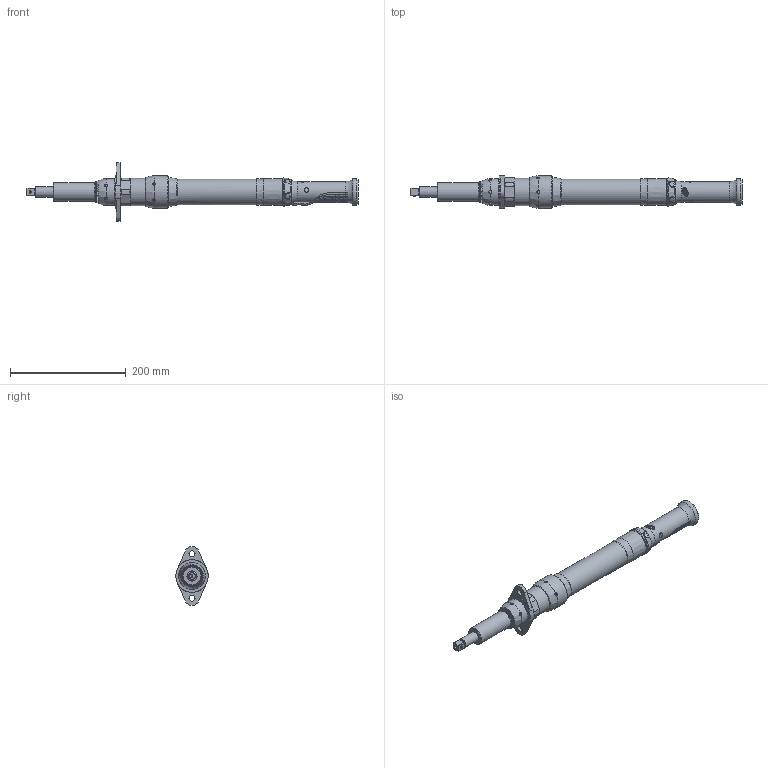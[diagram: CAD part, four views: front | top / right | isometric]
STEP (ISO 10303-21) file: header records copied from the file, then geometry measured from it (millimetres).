
FILE_DESCRIPTION(/* description */ (''),/* implementation_level */ '2;1');
FILE_NAME(/* name */ 'QE8STXXXF41S08',/* time_stamp */ '2012-06-14T13:35:23-04:00',/* author */ (''),/* organization */ (''),/* preprocessor_version */ 'ST-DEVELOPER v9',/* originating_system */ 'UGS - NX 4.0',/* authorisation */ '');
FILE_SCHEMA (('CONFIG_CONTROL_DESIGN'));
Products named in the file (1): jche50CFmaqb
Bounding box: 573.59 x 55.88 x 101.6 mm (x, y, z)
Volume: 789372.2 mm3; surface area: 85486.9 mm2
Topology: 1 solids, 3 shells, 774 faces, 2094 edges, 1371 vertices
Faces by surface type: extrusion 223, cylinder 222, cone 115, plane 114, torus 59, bspline 40, sphere 1
Full cylindrical faces by diameter (mm): 3.175 x1, 3.962 x1, 4.394 x1, 4.978 x12, 5.563 x1, 6.731 x1, 7.62 x2, 10.414 x2, 17.456 x1, 31.75 x1, 36.068 x1, 41.758 x1, 44.45 x1, 45.974 x1, 47.117 x1, 48.514 x1, 50.292 x1, 55.88 x1
Entity records: 60832 total; most frequent: CARTESIAN_POINT 43459, ORIENTED_EDGE 3938, DIRECTION 2845, EDGE_CURVE 1969, VERTEX_POINT 1322, B_SPLINE_CURVE_WITH_KNOTS 1136, AXIS2_PLACEMENT_3D 1076, EDGE_LOOP 882
